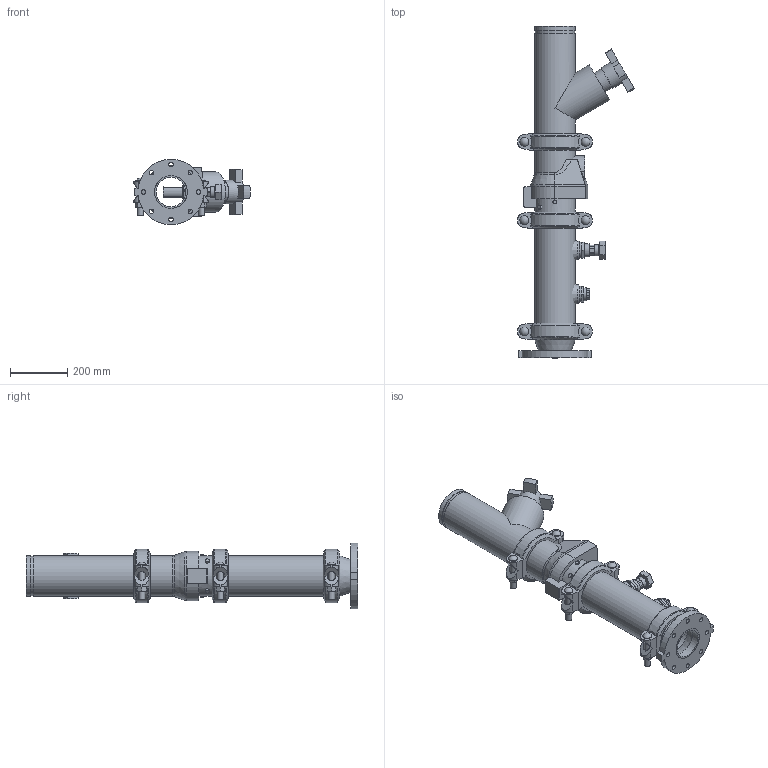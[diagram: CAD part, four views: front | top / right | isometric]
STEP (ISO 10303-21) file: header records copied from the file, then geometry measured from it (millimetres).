
FILE_DESCRIPTION(/* description */ ('VIC DVI PUMP DROP VERT S/383 (OGSxFLG) (S/924-1.25)','CAx-IF Rec.Pracs.---Representation and Presentation of Product Manufacturing Information (PMI)---4.0---2014-10-13'),/* implementation_level */ '2;1');
FILE_NAME(/* name */ 'C:\Users\Public\Documents\Victaulic.Temp\A849\Victaulic_IPS_Vertical DVI_CL 150_Series 383 (OGSxFLG)_924 (1.25)_05.0x04.0 (125x100).stp',/* time_stamp */ '2022-07-25T11:39:51+02:00',/* author */ ('Vjadhav'),/* organization */ ('Victaulic'),/* preprocessor_version */ 'ST-DEVELOPER v18',/* originating_system */ 'Autodesk Inventor 2020',/* authorisation */ '');
FILE_SCHEMA (('AP242_MANAGED_MODEL_BASED_3D_ENGINEERING_MIM_LF { 1 0 10303 442 1 1 4 }'));
Length unit declared in the file: inch
Products named in the file (9): 383_924 (1.25)-05.0x04.0; 741-04.0; 050-05.0x04.0; Pipe-05.0; 177N-05.0; 789-05.0; 779-05.0; 924-04.0x01.25; 923-04.0x0.75
Assembly tree (10 placements, depth 2):
  383_924 (1.25)-05.0x04.0
    741-04.0
    050-05.0x04.0
    177N-05.0  x3
    Pipe-05.0
    789-05.0
    779-05.0
    924-04.0x01.25
    923-04.0x0.75
Bounding box: 406.02 x 1155.7 x 227.76 mm (x, y, z)
Volume: 10679849.4 mm3; surface area: 1702000.7 mm2
Topology: 10 solids, 11 shells, 548 faces, 1469 edges, 983 vertices
Faces by surface type: plane 321, cylinder 182, cone 19, torus 18, sphere 6, bspline 2
Full cylindrical faces by diameter (mm): 13.716 x4, 15.875 x8, 21.209 x6, 21.336 x1, 26.67 x2, 30.48 x6, 38.608 x1, 42.164 x1, 45.974 x4, 48.514 x1, 55.626 x2, 75.26 x1, 82.55 x1, 102.26 x1, 110.084 x1, 114.3 x3, 128.194 x4, 128.6 x3, 137.033 x7, 141.3 x19
Entity records: 12572 total; most frequent: CARTESIAN_POINT 2536, DIRECTION 2063, ORIENTED_EDGE 1886, EDGE_CURVE 943, AXIS2_PLACEMENT_3D 784, VERTEX_POINT 639, LINE 495, VECTOR 495
